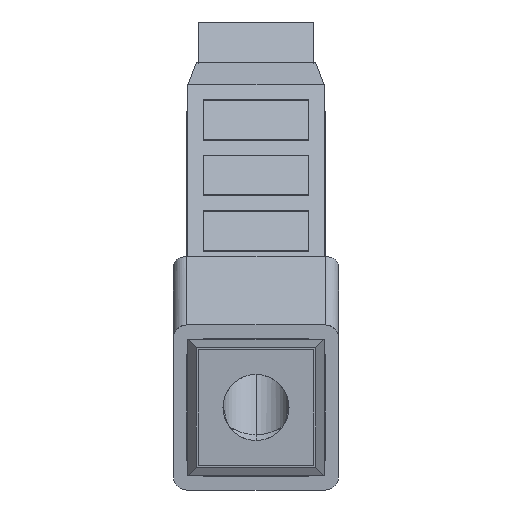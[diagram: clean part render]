
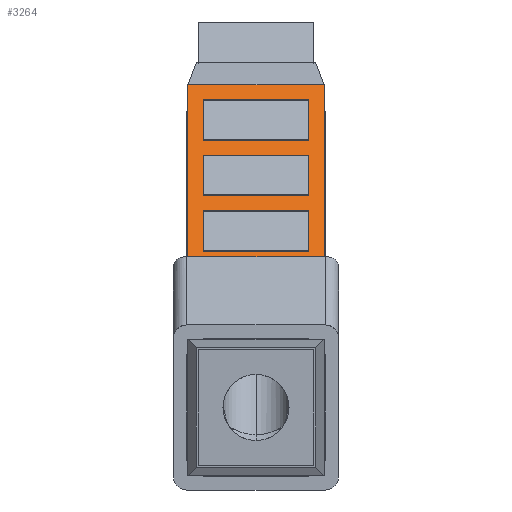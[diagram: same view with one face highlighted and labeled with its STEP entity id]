
A CAD part, front view. The second image highlights one B-rep face of the part: STEP entity #3264.
In plain terms, the highlighted planar face has unit normal (0, -0.707, 0.707).
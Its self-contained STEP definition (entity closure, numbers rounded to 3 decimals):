
#90 = VERTEX_POINT ( 'NONE', #5275 ) ;
#99 = EDGE_CURVE ( 'NONE', #506, #5110, #4571, .T. ) ;
#108 = EDGE_CURVE ( 'NONE', #1266, #2504, #3363, .T. ) ;
#140 = VECTOR ( 'NONE', #2163, 1000. ) ;
#143 = LINE ( 'NONE', #5322, #2203 ) ;
#166 = EDGE_CURVE ( 'NONE', #639, #1266, #1970, .T. ) ;
#201 = EDGE_CURVE ( 'NONE', #5107, #506, #751, .T. ) ;
#211 = FACE_BOUND ( 'NONE', #1501, .T. ) ;
#229 = CARTESIAN_POINT ( 'NONE',  ( -10.3, 45.875, 53.12 ) ) ;
#262 = LINE ( 'NONE', #1738, #140 ) ;
#397 = VECTOR ( 'NONE', #4582, 1000. ) ;
#464 = VECTOR ( 'NONE', #686, 1000. ) ;
#506 = VERTEX_POINT ( 'NONE', #4237 ) ;
#553 = CARTESIAN_POINT ( 'NONE',  ( 8., 22.456, 29.7 ) ) ;
#632 = VECTOR ( 'NONE', #5049, 1000. ) ;
#639 = VERTEX_POINT ( 'NONE', #2001 ) ;
#643 = DIRECTION ( 'NONE',  ( 0., -0.707, 0.707 ) ) ;
#668 = VECTOR ( 'NONE', #1932, 1000. ) ;
#686 = DIRECTION ( 'NONE',  ( -1., 0., 0. ) ) ;
#738 = VERTEX_POINT ( 'NONE', #2490 ) ;
#751 = LINE ( 'NONE', #4183, #632 ) ;
#768 = ORIENTED_EDGE ( 'NONE', *, *, #108, .T. ) ;
#817 = CARTESIAN_POINT ( 'NONE',  ( -8., 30.853, 38.097 ) ) ;
#1015 = CARTESIAN_POINT ( 'NONE',  ( -8., 30.853, 38.097 ) ) ;
#1107 = ORIENTED_EDGE ( 'NONE', *, *, #1929, .F. ) ;
#1126 = CARTESIAN_POINT ( 'NONE',  ( -10.3, 41.633, 48.877 ) ) ;
#1159 = EDGE_CURVE ( 'NONE', #1294, #3826, #1488, .T. ) ;
#1227 = CARTESIAN_POINT ( 'NONE',  ( 10.3, 14.056, 21.3 ) ) ;
#1266 = VERTEX_POINT ( 'NONE', #2198 ) ;
#1291 = CARTESIAN_POINT ( 'NONE',  ( 8., 16.446, 23.69 ) ) ;
#1294 = VERTEX_POINT ( 'NONE', #5095 ) ;
#1346 = VERTEX_POINT ( 'NONE', #5160 ) ;
#1355 = VECTOR ( 'NONE', #4674, 1000. ) ;
#1437 = FACE_BOUND ( 'NONE', #3613, .T. ) ;
#1488 = LINE ( 'NONE', #4175, #397 ) ;
#1501 = EDGE_LOOP ( 'NONE', ( #4000, #4019, #4313, #2329 ) ) ;
#1644 = ORIENTED_EDGE ( 'NONE', *, *, #2879, .T. ) ;
#1651 = VERTEX_POINT ( 'NONE', #817 ) ;
#1689 = LINE ( 'NONE', #3669, #2671 ) ;
#1719 = ORIENTED_EDGE ( 'NONE', *, *, #99, .T. ) ;
#1738 = CARTESIAN_POINT ( 'NONE',  ( 8., 30.853, 38.097 ) ) ;
#1771 = DIRECTION ( 'NONE',  ( -1., 0., 0. ) ) ;
#1779 = CARTESIAN_POINT ( 'NONE',  ( 8., 33.239, 40.484 ) ) ;
#1929 = EDGE_CURVE ( 'NONE', #4569, #90, #4966, .T. ) ;
#1932 = DIRECTION ( 'NONE',  ( 0., 0.707, 0.707 ) ) ;
#1970 = LINE ( 'NONE', #553, #5143 ) ;
#1998 = DIRECTION ( 'NONE',  ( -1., 0., 0. ) ) ;
#2001 = CARTESIAN_POINT ( 'NONE',  ( -8., 22.456, 29.7 ) ) ;
#2030 = DIRECTION ( 'NONE',  ( -1., 0., 0. ) ) ;
#2163 = DIRECTION ( 'NONE',  ( 0., -0.707, -0.707 ) ) ;
#2165 = EDGE_CURVE ( 'NONE', #4100, #738, #262, .T. ) ;
#2168 = ORIENTED_EDGE ( 'NONE', *, *, #166, .T. ) ;
#2198 = CARTESIAN_POINT ( 'NONE',  ( 8., 22.456, 29.7 ) ) ;
#2199 = CARTESIAN_POINT ( 'NONE',  ( 8., 16.446, 23.69 ) ) ;
#2203 = VECTOR ( 'NONE', #2030, 1000. ) ;
#2329 = ORIENTED_EDGE ( 'NONE', *, *, #3922, .T. ) ;
#2397 = FACE_BOUND ( 'NONE', #4173, .T. ) ;
#2401 = DIRECTION ( 'NONE',  ( 1., 0., 0. ) ) ;
#2490 = CARTESIAN_POINT ( 'NONE',  ( 8., 24.843, 32.087 ) ) ;
#2498 = VECTOR ( 'NONE', #2401, 1000. ) ;
#2504 = VERTEX_POINT ( 'NONE', #1291 ) ;
#2555 = EDGE_CURVE ( 'NONE', #3826, #90, #4651, .T. ) ;
#2588 = CARTESIAN_POINT ( 'NONE',  ( 8., 30.853, 38.097 ) ) ;
#2645 = EDGE_LOOP ( 'NONE', ( #4301, #2862, #3949, #1107 ) ) ;
#2671 = VECTOR ( 'NONE', #1998, 1000. ) ;
#2695 = PLANE ( 'NONE',  #2957 ) ;
#2703 = VECTOR ( 'NONE', #3908, 1000. ) ;
#2737 = CARTESIAN_POINT ( 'NONE',  ( 10.3, 45.875, 53.12 ) ) ;
#2796 = VECTOR ( 'NONE', #3812, 1000. ) ;
#2862 = ORIENTED_EDGE ( 'NONE', *, *, #1159, .T. ) ;
#2879 = EDGE_CURVE ( 'NONE', #2504, #1346, #5273, .T. ) ;
#2914 = EDGE_CURVE ( 'NONE', #5145, #1651, #3682, .T. ) ;
#2940 = VECTOR ( 'NONE', #4786, 1000. ) ;
#2957 = AXIS2_PLACEMENT_3D ( 'NONE', #229, #643, #3546 ) ;
#2976 = VECTOR ( 'NONE', #1771, 1000. ) ;
#3006 = ORIENTED_EDGE ( 'NONE', *, *, #4666, .T. ) ;
#3166 = CARTESIAN_POINT ( 'NONE',  ( -10.3, 14.056, 21.3 ) ) ;
#3248 = DIRECTION ( 'NONE',  ( 1., 0., 0. ) ) ;
#3252 = CARTESIAN_POINT ( 'NONE',  ( -8., 33.239, 40.484 ) ) ;
#3264 = ADVANCED_FACE ( 'NONE', ( #1437, #211, #2397, #4604 ), #2695, .T. ) ;
#3363 = LINE ( 'NONE', #3646, #4430 ) ;
#3407 = CARTESIAN_POINT ( 'NONE',  ( 8., 39.25, 46.494 ) ) ;
#3520 = LINE ( 'NONE', #5278, #3644 ) ;
#3546 = DIRECTION ( 'NONE',  ( 0., -0.707, -0.707 ) ) ;
#3613 = EDGE_LOOP ( 'NONE', ( #3006, #5158, #4524, #1719 ) ) ;
#3614 = EDGE_CURVE ( 'NONE', #1346, #639, #4095, .T. ) ;
#3644 = VECTOR ( 'NONE', #3248, 1000. ) ;
#3646 = CARTESIAN_POINT ( 'NONE',  ( 8., 22.456, 29.7 ) ) ;
#3669 = CARTESIAN_POINT ( 'NONE',  ( 8., 33.239, 40.484 ) ) ;
#3682 = LINE ( 'NONE', #1015, #2703 ) ;
#3802 = EDGE_CURVE ( 'NONE', #1294, #4569, #5236, .T. ) ;
#3812 = DIRECTION ( 'NONE',  ( 0., -0.707, -0.707 ) ) ;
#3826 = VERTEX_POINT ( 'NONE', #1126 ) ;
#3908 = DIRECTION ( 'NONE',  ( 0., 0.707, 0.707 ) ) ;
#3912 = LINE ( 'NONE', #3407, #2796 ) ;
#3922 = EDGE_CURVE ( 'NONE', #1651, #4100, #3520, .T. ) ;
#3949 = ORIENTED_EDGE ( 'NONE', *, *, #2555, .T. ) ;
#4000 = ORIENTED_EDGE ( 'NONE', *, *, #2165, .T. ) ;
#4019 = ORIENTED_EDGE ( 'NONE', *, *, #4554, .T. ) ;
#4095 = LINE ( 'NONE', #5224, #668 ) ;
#4100 = VERTEX_POINT ( 'NONE', #2588 ) ;
#4124 = VERTEX_POINT ( 'NONE', #1779 ) ;
#4173 = EDGE_LOOP ( 'NONE', ( #768, #1644, #4951, #2168 ) ) ;
#4175 = CARTESIAN_POINT ( 'NONE',  ( -10.3, 41.633, 48.877 ) ) ;
#4183 = CARTESIAN_POINT ( 'NONE',  ( -8., 39.25, 46.494 ) ) ;
#4237 = CARTESIAN_POINT ( 'NONE',  ( -8., 39.25, 46.494 ) ) ;
#4261 = CARTESIAN_POINT ( 'NONE',  ( -10.3, 45.875, 53.12 ) ) ;
#4301 = ORIENTED_EDGE ( 'NONE', *, *, #3802, .F. ) ;
#4313 = ORIENTED_EDGE ( 'NONE', *, *, #2914, .T. ) ;
#4430 = VECTOR ( 'NONE', #4455, 1000. ) ;
#4455 = DIRECTION ( 'NONE',  ( 0., -0.707, -0.707 ) ) ;
#4484 = CARTESIAN_POINT ( 'NONE',  ( 8., 39.25, 46.494 ) ) ;
#4498 = CARTESIAN_POINT ( 'NONE',  ( -8., 24.843, 32.087 ) ) ;
#4524 = ORIENTED_EDGE ( 'NONE', *, *, #201, .T. ) ;
#4554 = EDGE_CURVE ( 'NONE', #738, #5145, #143, .T. ) ;
#4569 = VERTEX_POINT ( 'NONE', #1227 ) ;
#4571 = LINE ( 'NONE', #4864, #2498 ) ;
#4582 = DIRECTION ( 'NONE',  ( -1., 0., 0. ) ) ;
#4604 = FACE_OUTER_BOUND ( 'NONE', #2645, .T. ) ;
#4651 = LINE ( 'NONE', #4261, #1355 ) ;
#4666 = EDGE_CURVE ( 'NONE', #5110, #4124, #3912, .T. ) ;
#4674 = DIRECTION ( 'NONE',  ( 0., -0.707, -0.707 ) ) ;
#4786 = DIRECTION ( 'NONE',  ( 0., -0.707, -0.707 ) ) ;
#4864 = CARTESIAN_POINT ( 'NONE',  ( 8., 39.25, 46.494 ) ) ;
#4951 = ORIENTED_EDGE ( 'NONE', *, *, #3614, .T. ) ;
#4966 = LINE ( 'NONE', #3166, #464 ) ;
#5049 = DIRECTION ( 'NONE',  ( 0., 0.707, 0.707 ) ) ;
#5069 = DIRECTION ( 'NONE',  ( 1., 0., 0. ) ) ;
#5095 = CARTESIAN_POINT ( 'NONE',  ( 10.3, 41.633, 48.877 ) ) ;
#5106 = EDGE_CURVE ( 'NONE', #4124, #5107, #1689, .T. ) ;
#5107 = VERTEX_POINT ( 'NONE', #3252 ) ;
#5110 = VERTEX_POINT ( 'NONE', #4484 ) ;
#5143 = VECTOR ( 'NONE', #5069, 1000. ) ;
#5145 = VERTEX_POINT ( 'NONE', #4498 ) ;
#5158 = ORIENTED_EDGE ( 'NONE', *, *, #5106, .T. ) ;
#5160 = CARTESIAN_POINT ( 'NONE',  ( -8., 16.446, 23.69 ) ) ;
#5224 = CARTESIAN_POINT ( 'NONE',  ( -8., 22.456, 29.7 ) ) ;
#5236 = LINE ( 'NONE', #2737, #2940 ) ;
#5273 = LINE ( 'NONE', #2199, #2976 ) ;
#5275 = CARTESIAN_POINT ( 'NONE',  ( -10.3, 14.056, 21.3 ) ) ;
#5278 = CARTESIAN_POINT ( 'NONE',  ( 8., 30.853, 38.097 ) ) ;
#5322 = CARTESIAN_POINT ( 'NONE',  ( 8., 24.843, 32.087 ) ) ;
